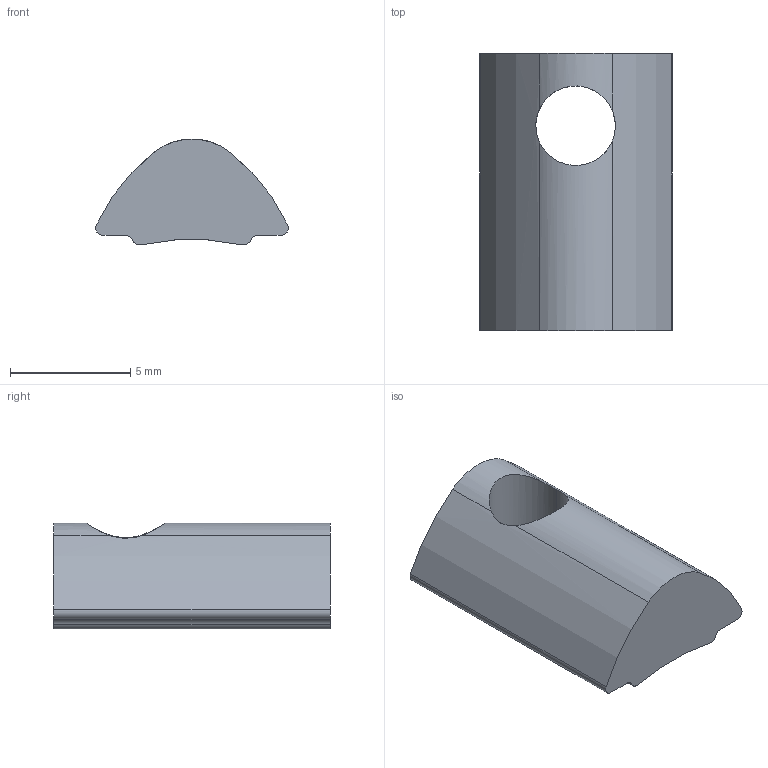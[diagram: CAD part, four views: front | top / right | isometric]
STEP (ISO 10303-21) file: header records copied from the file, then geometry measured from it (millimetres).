
FILE_DESCRIPTION (( 'STEP AP203' ), '1' );
FILE_NAME ('0105NSM4ST.STEP', '2024-03-04T10:58:35', ( 'Windows-Benutzer' ), ( '' ), 'SwSTEP 2.0', 'SolidWorks 2023', '' );
FILE_SCHEMA (( 'CONFIG_CONTROL_DESIGN' ));
Length unit declared in the file: millimetre
Products named in the file (1): 0105NSM4ST
Bounding box: 8 x 11.5 x 4.4 mm (x, y, z)
Volume: 239.1 mm3; surface area: 302.7 mm2
Topology: 1 solids, 1 shells, 19 faces, 54 edges, 36 vertices
Faces by surface type: cylinder 13, plane 6
Entity records: 797 total; most frequent: CARTESIAN_POINT 214, ORIENTED_EDGE 108, DIRECTION 106, EDGE_CURVE 54, AXIS2_PLACEMENT_3D 40, VERTEX_POINT 36, VECTOR 26, LINE 26
